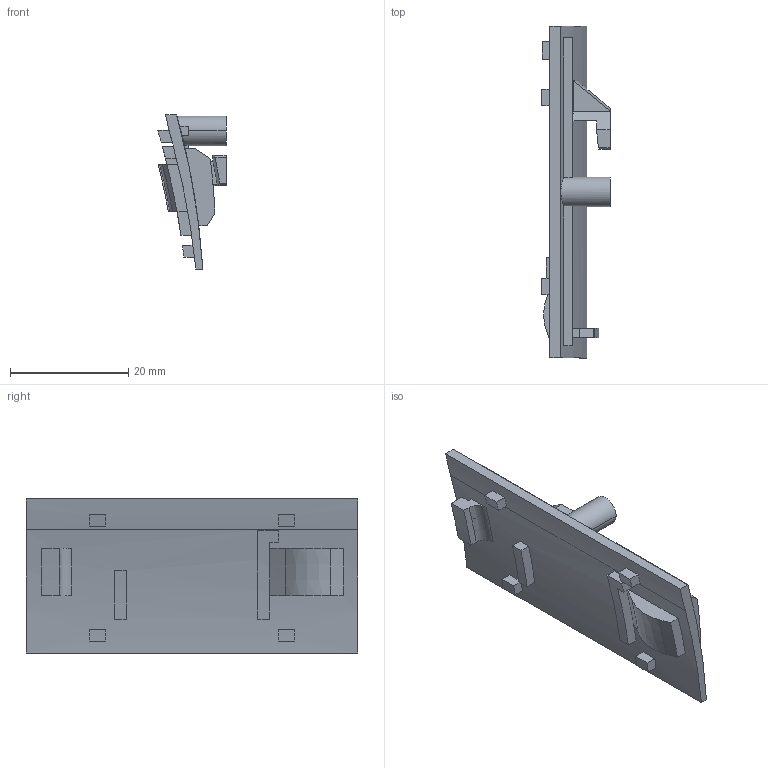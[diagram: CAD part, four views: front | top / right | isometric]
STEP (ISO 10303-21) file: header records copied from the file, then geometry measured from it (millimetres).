
FILE_DESCRIPTION (( 'STEP AP214' ), '1' );
FILE_NAME ('DWD-DP Sperrstift 5mm_rechts.step', '2012-05-08T08:42:04', ( 'Grass' ), ( '' ), 'SwSTEP 2.0', 'SolidWorks 2011', '' );
FILE_SCHEMA (( 'AUTOMOTIVE_DESIGN' ));
Length unit declared in the file: millimetre
Products named in the file (1): DWD-DP Sperrstift 5mm_rechts
Bounding box: 11.55 x 56 x 26 mm (x, y, z)
Volume: 3222.5 mm3; surface area: 4036.6 mm2
Topology: 1 solids, 1 shells, 88 faces, 226 edges, 150 vertices
Faces by surface type: plane 68, cylinder 14, bspline 5, torus 1
Entity records: 2897 total; most frequent: CARTESIAN_POINT 708, ORIENTED_EDGE 452, DIRECTION 440, EDGE_CURVE 226, VERTEX_POINT 150, AXIS2_PLACEMENT_3D 148, VECTOR 144, LINE 144
